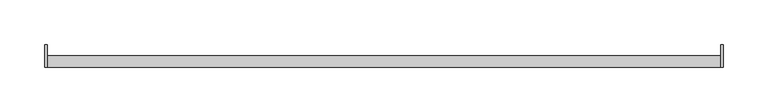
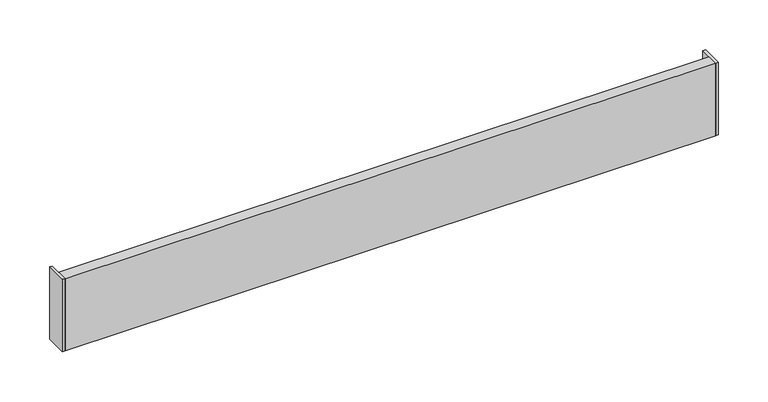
"""IFC4 building model written with IfcOpenShell, lengths in millimetres: furniture geometry."""

from ifc_helpers import new_model, si_unit, frame, origin, place, context, project, spatial, polyline, outline, extrude, source, transform, mapped, element, save


def furniture_cd2e4540(model_context):
    return source(origin(), model_context, "Body", "SweptSolid", [
        extrude(outline(polyline([(-377.825, 12.6999996), (-377.825, -12.7000004), (-381.0, -12.7000004), (-381.0, 12.6999996), (-377.825, 12.6999996)])), frame((0.0, 0.0, 871.11332), z_axis=(0.0, 0.0, 1.0), x_axis=(1.0, 0.0, 0.0)), (0.0, 0.0, 1.0), 88.9),
        extrude(outline(polyline([(381.0, 12.6999996), (381.0, -12.7000004), (377.825, -12.7000004), (377.825, 12.6999996), (381.0, 12.6999996)])), frame((0.0, 0.0, 871.11332), z_axis=(0.0, 0.0, 1.0), x_axis=(1.0, 0.0, 0.0)), (0.0, 0.0, 1.0), 88.9),
        extrude(outline(polyline([(377.825, 0.0), (377.825, -12.7000004), (-377.825, -12.7000004), (-377.825, 0.0), (377.825, 0.0)])), frame((0.0, 0.0, 871.11332), z_axis=(0.0, 0.0, 1.0), x_axis=(1.0, 0.0, 0.0)), (0.0, 0.0, 1.0), 88.9),
        extrude(outline(polyline([(-12.7000004, 947.3133166), (-12.7000004, 960.01332), (0.0, 960.01332), (0.0, 871.11332), (-12.7000004, 871.11332), (-12.7000004, 896.5133166), (-3.1750002, 896.5133166), (-3.1750002, 909.2133166), (-12.7000004, 909.2133166), (-12.7000004, 934.6133166), (-3.1750002, 934.6133166), (-3.1750002, 947.3133166), (-12.7000004, 947.3133166)])), frame((-377.825, 0.0, 0.0), z_axis=(1.0, 0.0, 0.0), x_axis=(0.0, 1.0, 0.0)), (0.0, 0.0, 1.0), 755.65),
        extrude(outline(polyline([(-12.7000004, 960.01332), (0.0, 960.01332), (0.0, 947.3133166), (12.6999996, 947.3133166), (12.6999996, 883.813317), (0.0, 883.813317), (0.0, 871.11332), (-12.7000004, 871.11332), (-12.7000004, 960.01332)])), frame((-381.0, 0.0, 0.0), z_axis=(1.0, 0.0, 0.0), x_axis=(0.0, 1.0, 0.0)), (0.0, 0.0, 1.0), 3.175),
        extrude(outline(polyline([(-12.7000004, 960.01332), (0.0, 960.01332), (0.0, 947.3133166), (12.6999996, 947.3133166), (12.6999996, 883.813317), (0.0, 883.813317), (0.0, 871.11332), (-12.7000004, 871.11332), (-12.7000004, 960.01332)])), frame((377.825, 0.0, 0.0), z_axis=(1.0, 0.0, 0.0), x_axis=(0.0, 1.0, 0.0)), (0.0, 0.0, 1.0), 3.175),
    ])


if __name__ == "__main__":
    model = new_model("IFC4")
    model_context = context("Model", 3, world=origin())
    ifc_project = project(units=[si_unit("LENGTHUNIT", "METRE", prefix="MILLI")], contexts=[model_context])
    site = spatial("IfcSite", under=ifc_project)
    building = spatial("IfcBuilding", under=site)
    placement = place(None, origin())
    furniture_shape = furniture_cd2e4540(model_context)
    element("IfcFurniture", 1, ObjectType="HermanMiller_ActionOffice_A3610_ToolBar : 4\"H x 30\"W", at=placement, inside=building, context=model_context, shape_type="MappedRepresentation", body=[
        mapped(furniture_shape, transform((0.0, 0.0, 0.0), x_axis=(1.0, 0.0, 0.0), y_axis=(0.0, 1.0, 0.0), z_axis=(0.0, 0.0, 1.0))),
    ])
    save(model, "model.ifc")
